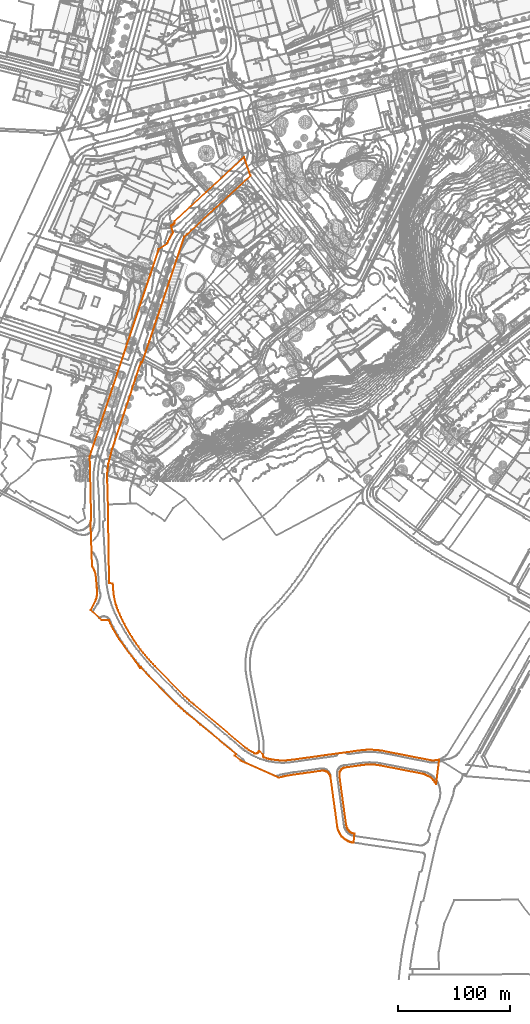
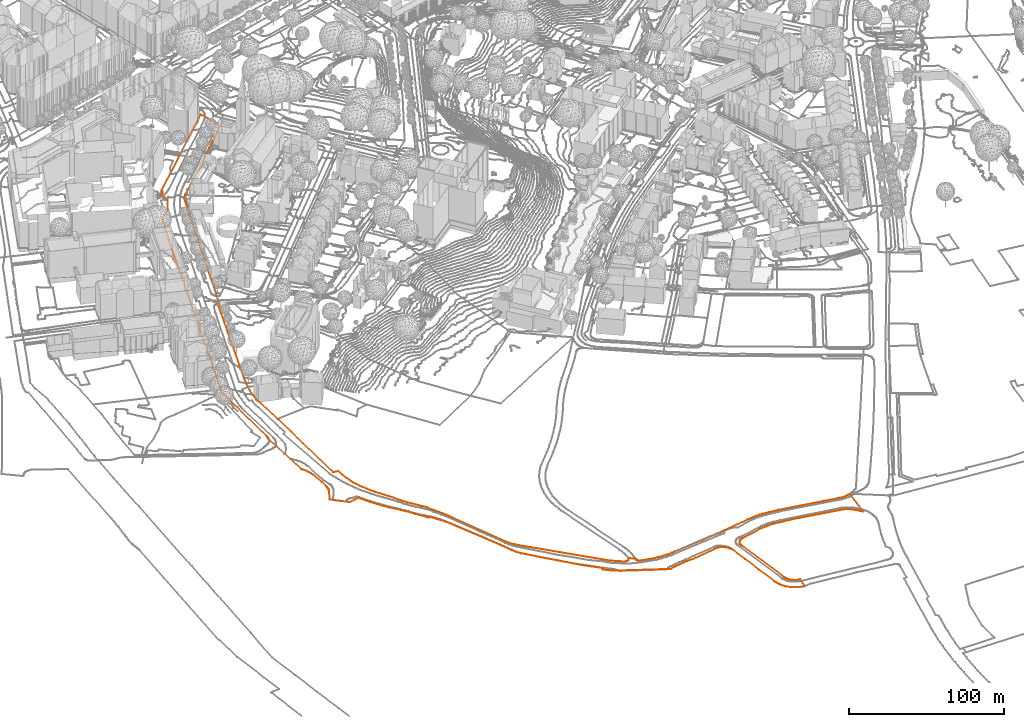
# Not in any storey, part 91 of 494: 1 proxy.
"""IFC2X3 model written with IfcOpenShell, lengths in metres."""

import ifcopenshell
import ifcopenshell.guid

model = None  # the IFC model being written
_history = None  # IfcOwnerHistory: only IFC2X3 demands one
_inside = {}  # id of a spatial element -> (the spatial element, [elements in it])
_under = {}  # id of a project, library or spatial element -> (it, [spatial elements below it])
_declared = {}  # id of a project -> (the project, [libraries it declares])
_typed = {}  # id of a type object -> (the type object, [elements of that type])
_made_of = {}  # id of a material, layer set ... -> (it, [elements and type objects made of it])


def new_model(schema):
    """Start an empty IFC model of exactly this schema.

    Asked for "IFC4X3", IfcOpenShell would pick the latest addendum, in which some entities
    have other attributes; the version numbers below select the first issue.
    IFC2X3 requires an IfcOwnerHistory on every rooted entity: one is made here for all.
    """
    global model, _history
    if schema == "IFC4X3":
        model = ifcopenshell.file(schema_version=(4, 3, 0, 0))
    else:
        model = ifcopenshell.file(schema=schema)
    _inside.clear()
    _under.clear()
    _declared.clear()
    _typed.clear()
    _made_of.clear()
    _history = None
    if model.schema == "IFC2X3":
        org = make("IfcOrganization", Name="unknown")
        user = make(
            "IfcPersonAndOrganization",
            ThePerson=make("IfcPerson", FamilyName="unknown"),
            TheOrganization=org,
        )
        app = make(
            "IfcApplication",
            ApplicationDeveloper=org,
            Version="unknown",
            ApplicationFullName="unknown",
            ApplicationIdentifier="unknown",
        )
        _history = make(
            "IfcOwnerHistory",
            OwningUser=user,
            OwningApplication=app,
            ChangeAction="ADDED",
            CreationDate=0,
        )
    return model


def make(cls, **values):
    """One entity of the class cls with the attributes given. An attribute that is None is left unset."""
    return model.create_entity(
        cls, **{name: value for name, value in values.items() if value is not None}
    )


def entity(cls, *values):
    """Any entity or typed value of the class cls, its attributes in the order of the schema. None: left unset."""
    e = model.create_entity(cls)
    for i, value in enumerate(values):
        if value is not None:
            e[i] = value
    return e


def rooted(cls, **values):
    """An entity with a GlobalId (a new one), such as an element, a storey or a relation."""
    return make(cls, GlobalId=ifcopenshell.guid.new(), OwnerHistory=_history, **values)


def si_unit(unit_type, name, prefix=None):
    """IfcSIUnit, for example si_unit("LENGTHUNIT", "METRE", prefix="MILLI")."""
    return make("IfcSIUnit", UnitType=unit_type, Prefix=prefix, Name=name)


def assignment(units):
    """IfcUnitAssignment: the units of a project."""
    return None if units is None else make("IfcUnitAssignment", Units=units)


def point(xyz):
    """IfcCartesianPoint."""
    return None if xyz is None else make("IfcCartesianPoint", Coordinates=xyz)


def direction(xyz):
    """IfcDirection."""
    return None if xyz is None else make("IfcDirection", DirectionRatios=xyz)


def frame(location, z_axis=None, x_axis=None):
    """IfcAxis2Placement3D, a coordinate frame: its origin and axes. An axis left out is left unset."""
    return make(
        "IfcAxis2Placement3D",
        Location=point(location),
        Axis=direction(z_axis),
        RefDirection=direction(x_axis),
    )


def origin_with_axes():
    """The frame at (0, 0, 0) with the z axis (0, 0, 1) and the x axis (1, 0, 0) written out."""
    return frame((0.0, 0.0, 0.0), z_axis=(0.0, 0.0, 1.0), x_axis=(1.0, 0.0, 0.0))


def place(relative_to, where):
    """IfcLocalPlacement: puts the frame where relative to a parent placement (None: the world)."""
    return make(
        "IfcLocalPlacement", PlacementRelTo=relative_to, RelativePlacement=where
    )


def context(
    kind, dimensions, precision=None, world=None, true_north=None, identifier=None
):
    """IfcGeometricRepresentationContext, for example the 3D "Model" context."""
    return make(
        "IfcGeometricRepresentationContext",
        ContextIdentifier=identifier,
        ContextType=kind,
        CoordinateSpaceDimension=dimensions,
        Precision=precision,
        WorldCoordinateSystem=world,
        TrueNorth=true_north,
    )


def subcontext(parent, identifier, kind, view, scale=None):
    """IfcGeometricRepresentationSubContext, for example "Body" below "Model"."""
    return make(
        "IfcGeometricRepresentationSubContext",
        ContextIdentifier=identifier,
        ContextType=kind,
        ParentContext=parent,
        TargetScale=scale,
        TargetView=view,
    )


def project(units=None, contexts=None):
    """IfcProject with its units and contexts."""
    return rooted(
        "IfcProject",
        Name="project",
        RepresentationContexts=contexts,
        UnitsInContext=assignment(units),
    )


def shape(context_of_items, identifier, shape_type, items):
    """IfcShapeRepresentation: the items that make up one representation, for example the "Body"."""
    return make(
        "IfcShapeRepresentation",
        ContextOfItems=context_of_items,
        RepresentationIdentifier=identifier,
        RepresentationType=shape_type,
        Items=items,
    )


def made_of(thing, what):
    """Note that an element or type object is made of a material, layer set ...; save() writes the relation."""
    if what is not None:
        _made_of.setdefault(what.id(), (what, []))[1].append(thing)
    return thing


def element(
    cls,
    number,
    at=None,
    inside=None,
    cuts=None,
    type_object=None,
    material=None,
    context=None,
    identifier="Body",
    shape_type=None,
    held_by="IfcProductDefinitionShape",
    body=None,
    shapes=None,
    **own,
):
    """One element of the class cls, such as IfcWall. Its Tag is "e" and its number.

    at: its placement. inside: the storey or other place that contains it. cuts: it is an
    opening in that element (IfcRelVoidsElement). A single representation is given by context,
    identifier, shape_type and body (its items); several are given by shapes. held_by: the class
    of the entity that holds the representations. save() writes the other relations.
    """
    e = rooted(cls, Tag="e%d" % number, ObjectPlacement=at, **own)
    if body is not None:
        shapes = [shape(context, identifier, shape_type, body)]
    if shapes is not None:
        e.Representation = make(held_by, Representations=shapes)
    if inside is not None:
        _inside.setdefault(inside.id(), (inside, []))[1].append(e)
    if cuts is not None:
        rooted(
            "IfcRelVoidsElement", RelatingBuildingElement=cuts, RelatedOpeningElement=e
        )
    if type_object is not None:
        _typed.setdefault(type_object.id(), (type_object, []))[1].append(e)
    return made_of(e, material)


def aggregate(whole, parts):
    """IfcRelAggregates: a whole, such as a stair, and the parts it consists of."""
    return rooted("IfcRelAggregates", RelatingObject=whole, RelatedObjects=parts)


def save(model, path):
    """Write the relations noted so far, then the file.

    IfcRelAggregates (storeys below a building ...), IfcRelContainedInSpatialStructure (elements
    in a storey), IfcRelDefinesByType, IfcRelAssociatesMaterial and IfcRelDeclares: one each for
    every whole, place, type object, material and project.
    """
    for whole, parts in _under.values():
        aggregate(whole, parts)
    for where, things in _inside.values():
        rooted(
            "IfcRelContainedInSpatialStructure",
            RelatedElements=things,
            RelatingStructure=where,
        )
    for kind, things in _typed.values():
        rooted("IfcRelDefinesByType", RelatedObjects=things, RelatingType=kind)
    for what, things in _made_of.values():
        rooted("IfcRelAssociatesMaterial", RelatedObjects=things, RelatingMaterial=what)
    for by, libraries in _declared.values():
        rooted("IfcRelDeclares", RelatingContext=by, RelatedDefinitions=libraries)
    model.write(path)


model = new_model("IFC2X3")

# Units and contexts
model_context = context("Model", 3, precision=1e-05, world=origin_with_axes())
body_context = subcontext(model_context, "Body", "Model", "MODEL_VIEW")
ifc_project = project(units=[si_unit("AREAUNIT", "SQUARE_METRE"), si_unit("LENGTHUNIT", "METRE")], contexts=[model_context])

# Proxy
proxy_placement = place(None, frame((15.8877320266, 20.6297160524, 528.0998203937), z_axis=(0.0, 0.0, 1.0), x_axis=(1.0, 0.0, 0.0)))
element("IfcBuildingElementProxy", 1, at=proxy_placement, Name="Cadastre 80", ObjectType="NOTDEFINED", context=body_context, shape_type="GeometricCurveSet", body=[
    entity("IfcGeometricCurveSet", [entity("IfcPolyline", [entity("IfcCartesianPoint", [0.0, 0.0, 0.0]), entity("IfcCartesianPoint", [1.3700000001, 4.1310000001, 0.1267865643]), entity("IfcCartesianPoint", [24.4450000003, 73.5360000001, 1.471592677]), entity("IfcCartesianPoint", [30.1170000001, 90.5989999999, 1.5704376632]), entity("IfcCartesianPoint", [35.8080000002, 107.6429999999, 2.1788151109]), entity("IfcCartesianPoint", [53.9240000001, 161.845, 3.5037501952]), entity("IfcCartesianPoint", [61.4539999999, 184.3540000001, 4.9051179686]), entity("IfcCartesianPoint", [69.0720000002, 189.7169999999, 5.3174669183]), entity("IfcCartesianPoint", [69.9739999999, 191.7, 5.4232299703]), entity("IfcCartesianPoint", [70.943, 193.6510000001, 5.5345758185]), entity("IfcCartesianPoint", [71.9750000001, 195.5700000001, 5.6352067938]), entity("IfcCartesianPoint", [73.071, 197.452, 5.729597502]), entity("IfcCartesianPoint", [74.23, 199.297, 5.8302710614]), entity("IfcCartesianPoint", [72.3450000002, 205.2290000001, 5.9612568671]), entity("IfcCartesianPoint", [72.8930000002, 205.422, 5.9883732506]), entity("IfcCartesianPoint", [73.4130000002, 205.6799999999, 6.0228923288]), entity("IfcCartesianPoint", [73.8969999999, 206.0009999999, 6.0638947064]), entity("IfcCartesianPoint", [74.3370000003, 206.379, 6.1025839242]), entity("IfcCartesianPoint", [74.7280000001, 206.8089999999, 6.1368080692]), entity("IfcCartesianPoint", [75.0630000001, 207.284, 6.1646952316]), entity("IfcCartesianPoint", [75.3360000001, 207.7960000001, 6.1576687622]), entity("IfcCartesianPoint", [75.5449999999, 208.338, 6.1716515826]), entity("IfcCartesianPoint", [75.6850000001, 208.9010000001, 6.194109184]), entity("IfcCartesianPoint", [75.7540000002, 209.4779999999, 6.2376271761]), entity("IfcCartesianPoint", [103.656, 235.263, 7.66897293]), entity("IfcCartesianPoint", [137.4420000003, 266.4920000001, 9.6656929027]), entity("IfcCartesianPoint", [143.0109999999, 249.8189999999, 9.2420330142]), entity("IfcCartesianPoint", [110.8020000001, 220.071, 7.0580988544]), entity("IfcCartesianPoint", [86.1010000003, 197.2549999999, 6.1402070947]), entity("IfcCartesianPoint", [84.1329999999, 195.4369999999, 5.945664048]), entity("IfcCartesianPoint", [60.1710000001, 123.7350000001, 2.9607254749]), entity("IfcCartesianPoint", [52.9550000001, 102.1429999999, 2.3175397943]), entity("IfcCartesianPoint", [46.6680000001, 83.9709999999, 1.9231325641]), entity("IfcCartesianPoint", [46.3200000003, 83.8100000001, 1.9074451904]), entity("IfcCartesianPoint", [46.0010000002, 83.598, 1.8977257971]), entity("IfcCartesianPoint", [45.7179999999, 83.3389999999, 1.8885195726]), entity("IfcCartesianPoint", [45.4780000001, 83.04, 1.8795370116]), entity("IfcCartesianPoint", [45.287, 82.7080000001, 1.8702921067]), entity("IfcCartesianPoint", [45.148, 82.351, 1.8620469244]), entity("IfcCartesianPoint", [19.952, 6.6799999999, 0.819991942]), entity("IfcCartesianPoint", [16.4810000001, -6.7679999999, 0.3471531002]), entity("IfcCartesianPoint", [15.3310000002, -17.0090000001, 0.3276889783]), entity("IfcCartesianPoint", [15.96, -29.3810000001, 0.0981105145]), entity("IfcCartesianPoint", [16.1690000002, -42.8829999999, 0.240598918]), entity("IfcCartesianPoint", [16.4390000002, -59.686, 0.325038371]), entity("IfcCartesianPoint", [16.6680000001, -74.6880000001, 0.3280294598]), entity("IfcCartesianPoint", [17.2630000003, -112.8149999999, 0.3358010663]), entity("IfcCartesianPoint", [20.5630000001, -113.2849999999, 0.4251372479]), entity("IfcCartesianPoint", [20.6740000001, -115.7209999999, 0.4273187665]), entity("IfcCartesianPoint", [20.8540000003, -118.152, 0.4308563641]), entity("IfcCartesianPoint", [21.1040000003, -120.578, 0.4357696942]), entity("IfcCartesianPoint", [21.423, -122.9950000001, 0.440196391]), entity("IfcCartesianPoint", [21.8110000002, -125.402, 0.4424461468]), entity("IfcCartesianPoint", [22.1860000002, -127.3899999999, 0.4446205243]), entity("IfcCartesianPoint", [22.6310000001, -129.3640000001, 0.4845600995]), entity("IfcCartesianPoint", [23.1440000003, -131.3219999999, 0.543737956]), entity("IfcCartesianPoint", [23.7250000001, -133.26, 0.5829087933]), entity("IfcCartesianPoint", [24.3740000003, -135.176, 0.6205084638]), entity("IfcCartesianPoint", [25.0890000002, -137.0689999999, 0.693692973]), entity("IfcCartesianPoint", [26.4240000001, -140.165, 0.7455101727]), entity("IfcCartesianPoint", [27.8280000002, -143.23, 0.7667772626]), entity("IfcCartesianPoint", [29.3000000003, -146.263, 0.8897718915]), entity("IfcCartesianPoint", [30.8400000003, -149.2609999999, 1.0941554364]), entity("IfcCartesianPoint", [32.4470000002, -152.2250000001, 1.1746447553]), entity("IfcCartesianPoint", [34.1440000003, -155.1629999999, 1.2537698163]), entity("IfcCartesianPoint", [35.8910000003, -158.071, 1.1586435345]), entity("IfcCartesianPoint", [37.6869999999, -160.949, 1.004370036]), entity("IfcCartesianPoint", [39.531, -163.7960000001, 0.8032185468]), entity("IfcCartesianPoint", [41.4240000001, -166.612, 0.7671936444]), entity("IfcCartesianPoint", [43.3540000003, -169.2890000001, 0.8003768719]), entity("IfcCartesianPoint", [45.344, -171.922, 0.7628147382]), entity("IfcCartesianPoint", [47.3940000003, -174.5090000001, 0.6803592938]), entity("IfcCartesianPoint", [49.5019999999, -177.0490000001, 0.5083053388]), entity("IfcCartesianPoint", [51.1970000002, -179.0719999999, -0.171011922]), entity("IfcCartesianPoint", [52.9330000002, -181.0600000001, -0.6822399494]), entity("IfcCartesianPoint", [54.7090000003, -183.0120000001, -1.2821169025]), entity("IfcCartesianPoint", [56.5249999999, -184.9280000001, -1.9569334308]), entity("IfcCartesianPoint", [58.3790000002, -186.8060000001, -2.5866184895]), entity("IfcCartesianPoint", [84.6129999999, -213.628, -15.3945732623]), entity("IfcCartesianPoint", [86.6129999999, -215.5930000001, -16.3226977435]), entity("IfcCartesianPoint", [88.6610000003, -217.507, -17.1204113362]), entity("IfcCartesianPoint", [90.7579999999, -219.3689999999, -17.4405098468]), entity("IfcCartesianPoint", [92.9020000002, -221.176, -17.9143379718]), entity("IfcCartesianPoint", [138.4130000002, -259.2239999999, -22.7600508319]), entity("IfcCartesianPoint", [139.9590000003, -260.3589999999, -22.7782764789]), entity("IfcCartesianPoint", [141.5449999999, -261.4369999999, -22.8984663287]), entity("IfcCartesianPoint", [143.1690000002, -262.4580000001, -23.0285391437]), entity("IfcCartesianPoint", [144.8280000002, -263.4199999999, -23.0972380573]), entity("IfcCartesianPoint", [146.5210000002, -264.3219999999, -23.1832862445]), entity("IfcCartesianPoint", [146.9470000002, -264.483, -23.1967937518]), entity("IfcCartesianPoint", [147.392, -264.578, -23.2083823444]), entity("IfcCartesianPoint", [147.8459999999, -264.605, -23.2115551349]), entity("IfcCartesianPoint", [148.2990000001, -264.5619999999, -23.215173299]), entity("IfcCartesianPoint", [148.7409999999, -264.452, -23.2404782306]), entity("IfcCartesianPoint", [149.1600000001, -264.2760000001, -23.2644663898]), entity("IfcCartesianPoint", [149.548, -264.0379999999, -23.2788613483]), entity("IfcCartesianPoint", [149.8960000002, -263.7450000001, -23.2882389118]), entity("IfcCartesianPoint", [150.196, -263.402, -23.2963230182]), entity("IfcCartesianPoint", [150.4399999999, -263.0179999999, -23.2957249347]), entity("IfcCartesianPoint", [150.6230000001, -262.602, -23.2919049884]), entity("IfcCartesianPoint", [150.7409999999, -262.162, -23.2894418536]), entity("IfcCartesianPoint", [154.3300000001, -265.621, -23.313034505]), entity("IfcCartesianPoint", [154.2370000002, -265.987, -23.310322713]), entity("IfcCartesianPoint", [154.2140000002, -266.3640000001, -23.3086241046]), entity("IfcCartesianPoint", [154.2620000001, -266.7379999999, -23.3121690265]), entity("IfcCartesianPoint", [154.3799999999, -267.0970000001, -23.3115315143]), entity("IfcCartesianPoint", [154.5630000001, -267.4269999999, -23.3060305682]), entity("IfcCartesianPoint", [154.8050000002, -267.7169999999, -23.2987560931]), entity("IfcCartesianPoint", [155.0980000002, -267.956, -23.2899485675]), entity("IfcCartesianPoint", [155.4300000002, -268.1359999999, -23.2849845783]), entity("IfcCartesianPoint", [155.79, -268.25, -23.2870609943]), entity("IfcCartesianPoint", [157.7590000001, -268.831, -23.2877000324]), entity("IfcCartesianPoint", [159.7490000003, -269.335, -23.3033862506]), entity("IfcCartesianPoint", [161.7570000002, -269.763, -23.3193194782]), entity("IfcCartesianPoint", [163.7800000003, -270.1129999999, -23.4409571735]), entity("IfcCartesianPoint", [165.8140000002, -270.385, -23.6773744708]), entity("IfcCartesianPoint", [167.858, -270.5789999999, -23.5735777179]), entity("IfcCartesianPoint", [169.9110000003, -270.6939999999, -23.5841148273]), entity("IfcCartesianPoint", [171.9670000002, -270.7309999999, -23.5837855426]), entity("IfcCartesianPoint", [174.0219999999, -270.6880000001, -23.732234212]), entity("IfcCartesianPoint", [176.0750000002, -270.567, -23.8176508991]), entity("IfcCartesianPoint", [178.1210000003, -270.3659999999, -23.7857984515]), entity("IfcCartesianPoint", [180.1580000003, -270.088, -23.8650714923]), entity("IfcCartesianPoint", [214.5090000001, -265.334, -24.6393101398]), entity("IfcCartesianPoint", [239.8640000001, -261.825, -24.2785943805]), entity("IfcCartesianPoint", [242.0970000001, -261.551, -24.2408899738]), entity("IfcCartesianPoint", [244.338, -261.352, -24.2132088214]), entity("IfcCartesianPoint", [246.5840000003, -261.227, -24.1954756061]), entity("IfcCartesianPoint", [248.8330000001, -261.1780000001, -24.1840255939]), entity("IfcCartesianPoint", [251.0830000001, -261.2039999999, -24.2283756]), entity("IfcCartesianPoint", [253.3310000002, -261.304, -24.3354981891]), entity("IfcCartesianPoint", [255.574, -261.4790000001, -24.3641250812]), entity("IfcCartesianPoint", [257.8110000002, -261.7290000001, -24.4327138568]), entity("IfcCartesianPoint", [260.037, -262.054, -24.3911472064]), entity("IfcCartesianPoint", [262.2519999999, -262.453, -24.26482607]), entity("IfcCartesianPoint", [303.1230000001, -270.469, -24.2551452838]), entity("IfcCartesianPoint", [304.2609999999, -270.6040000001, -24.2770137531]), entity("IfcCartesianPoint", [305.4050000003, -270.6640000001, -24.3041081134]), entity("IfcCartesianPoint", [306.551, -270.649, -24.302267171]), entity("IfcCartesianPoint", [307.6940000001, -270.558, -24.2573568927]), entity("IfcCartesianPoint", [308.8280000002, -270.3929999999, -24.2702491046]), entity("IfcCartesianPoint", [309.9480000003, -270.1540000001, -24.3254604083]), entity("IfcCartesianPoint", [311.051, -269.841, -24.3000885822]), entity("IfcCartesianPoint", [308.338, -291.656, -24.2401026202]), entity("IfcCartesianPoint", [307.7880000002, -290.6799999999, -24.2541698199]), entity("IfcCartesianPoint", [307.1770000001, -289.7409999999, -24.2758272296]), entity("IfcCartesianPoint", [306.5070000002, -288.8430000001, -24.3041255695]), entity("IfcCartesianPoint", [305.781, -287.9890000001, -24.3080094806]), entity("IfcCartesianPoint", [305.0019999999, -287.1839999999, -24.2955144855]), entity("IfcCartesianPoint", [304.173, -286.4299999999, -24.2763907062]), entity("IfcCartesianPoint", [303.2970000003, -285.7309999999, -24.2701885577]), entity("IfcCartesianPoint", [302.3790000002, -285.0900000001, -24.188346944]), entity("IfcCartesianPoint", [301.4210000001, -284.5079999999, -24.1284570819]), entity("IfcCartesianPoint", [300.4280000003, -283.9890000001, -24.0937484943]), entity("IfcCartesianPoint", [299.4040000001, -283.5349999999, -24.049508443]), entity("IfcCartesianPoint", [298.3530000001, -283.1470000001, -24.059267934]), entity("IfcCartesianPoint", [297.2790000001, -282.827, -24.085480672]), entity("IfcCartesianPoint", [296.1869999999, -282.5760000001, -24.1276155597]), entity("IfcCartesianPoint", [263.75, -276.22, -24.0336851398]), entity("IfcCartesianPoint", [258.341, -275.1399999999, -24.4310267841]), entity("IfcCartesianPoint", [256.98, -274.9129999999, -24.4204420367]), entity("IfcCartesianPoint", [255.6129999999, -274.7239999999, -24.3654985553]), entity("IfcCartesianPoint", [254.2409999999, -274.571, -24.3379975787]), entity("IfcCartesianPoint", [252.8910000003, -274.4480000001, -24.3239761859]), entity("IfcCartesianPoint", [251.537, -274.388, -24.2550172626]), entity("IfcCartesianPoint", [250.1809999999, -274.3910000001, -24.1876109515]), entity("IfcCartesianPoint", [247.9640000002, -274.4280000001, -24.2119384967]), entity("IfcCartesianPoint", [245.75, -274.544, -24.2129466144]), entity("IfcCartesianPoint", [243.5419999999, -274.7390000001, -24.2396171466]), entity("IfcCartesianPoint", [241.3420000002, -275.0120000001, -24.2495533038]), entity("IfcCartesianPoint", [227.8429999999, -276.8629999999, -25.3147274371]), entity("IfcCartesianPoint", [227.2150000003, -276.98, -25.2990948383]), entity("IfcCartesianPoint", [226.602, -277.1580000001, -25.3172596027]), entity("IfcCartesianPoint", [226.0100000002, -277.395, -25.316985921]), entity("IfcCartesianPoint", [225.443, -277.6899999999, -25.297709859]), entity("IfcCartesianPoint", [224.909, -278.0379999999, -25.2894736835]), entity("IfcCartesianPoint", [224.4100000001, -278.4369999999, -25.2854991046]), entity("IfcCartesianPoint", [223.9539999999, -278.8829999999, -25.2674602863]), entity("IfcCartesianPoint", [223.5430000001, -279.372, -25.2465641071]), entity("IfcCartesianPoint", [223.1830000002, -279.898, -25.2245808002]), entity("IfcCartesianPoint", [222.8769999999, -280.4569999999, -25.1984987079]), entity("IfcCartesianPoint", [222.6269999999, -281.044, -25.177189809]), entity("IfcCartesianPoint", [222.4350000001, -281.652, -25.1608245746]), entity("IfcCartesianPoint", [222.304, -282.2760000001, -25.1496587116]), entity("IfcCartesianPoint", [222.2340000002, -282.909, -25.1442766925]), entity("IfcCartesianPoint", [222.227, -283.547, -25.1437531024]), entity("IfcCartesianPoint", [222.2820000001, -284.182, -25.1478670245]), entity("IfcCartesianPoint", [228.3429999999, -328.429, -25.3286407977]), entity("IfcCartesianPoint", [228.4840000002, -329.219, -25.3272595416]), entity("IfcCartesianPoint", [228.6970000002, -329.993, -25.3251729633]), entity("IfcCartesianPoint", [228.98, -330.7439999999, -25.3224006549]), entity("IfcCartesianPoint", [229.3300000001, -331.466, -25.3166783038]), entity("IfcCartesianPoint", [229.7450000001, -332.1529999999, -25.288815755]), entity("IfcCartesianPoint", [230.2209999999, -332.8, -25.2568577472]), entity("IfcCartesianPoint", [230.7540000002, -333.3999999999, -25.2559209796]), entity("IfcCartesianPoint", [231.3400000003, -333.949, -25.2600880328]), entity("IfcCartesianPoint", [231.9739999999, -334.442, -25.2587917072]), entity("IfcCartesianPoint", [232.6510000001, -334.875, -25.2536286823]), entity("IfcCartesianPoint", [233.3640000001, -335.2439999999, -25.2399740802]), entity("IfcCartesianPoint", [234.108, -335.5460000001, -25.1830751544]), entity("IfcCartesianPoint", [234.8769999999, -335.7790000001, -25.0728158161]), entity("IfcCartesianPoint", [235.6639999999, -335.9399999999, -24.9996341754]), entity("IfcCartesianPoint", [234.8450000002, -343.9099999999, -25.0780677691]), entity("IfcCartesianPoint", [233.7570000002, -343.7309999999, -25.2099185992]), entity("IfcCartesianPoint", [232.6830000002, -343.4820000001, -25.2532282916]), entity("IfcCartesianPoint", [231.6269999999, -343.162, -25.2595012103]), entity("IfcCartesianPoint", [230.5950000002, -342.773, -25.2546545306]), entity("IfcCartesianPoint", [229.591, -342.317, -25.2991551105]), entity("IfcCartesianPoint", [228.6189999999, -341.7960000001, -25.3259370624]), entity("IfcCartesianPoint", [227.6839999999, -341.2120000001, -25.3095937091]), entity("IfcCartesianPoint", [226.7880000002, -340.568, -25.3117479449]), entity("IfcCartesianPoint", [225.9380000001, -339.8659999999, -25.3145381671]), entity("IfcCartesianPoint", [225.1350000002, -339.1100000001, -25.2912737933]), entity("IfcCartesianPoint", [224.3590000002, -338.2790000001, -25.2850928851]), entity("IfcCartesianPoint", [223.6410000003, -337.398, -25.251546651]), entity("IfcCartesianPoint", [222.9840000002, -336.47, -25.2076189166]), entity("IfcCartesianPoint", [222.4169999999, -335.5390000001, -25.1592903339]), entity("IfcCartesianPoint", [221.9110000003, -334.574, -25.1201167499]), entity("IfcCartesianPoint", [221.469, -333.578, -25.0870557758]), entity("IfcCartesianPoint", [221.0929999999, -332.5549999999, -25.0754704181]), entity("IfcCartesianPoint", [220.784, -331.5090000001, -25.0782993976]), entity("IfcCartesianPoint", [220.5440000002, -330.446, -25.0804966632]), entity("IfcCartesianPoint", [220.3730000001, -329.3700000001, -25.082062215]), entity("IfcCartesianPoint", [218.1610000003, -313.199, -24.9696161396]), entity("IfcCartesianPoint", [216.2009999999, -298.8689999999, -24.7297373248]), entity("IfcCartesianPoint", [214.4130000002, -285.8219999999, -24.6334507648]), entity("IfcCartesianPoint", [214.287, -285.1459999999, -24.6261124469]), entity("IfcCartesianPoint", [214.0959999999, -284.486, -24.6368725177]), entity("IfcCartesianPoint", [213.841, -283.848, -24.6512380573]), entity("IfcCartesianPoint", [213.5240000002, -283.2379999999, -24.6690963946]), entity("IfcCartesianPoint", [213.1490000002, -282.6629999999, -24.6796024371]), entity("IfcCartesianPoint", [212.7200000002, -282.1259999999, -24.6714591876]), entity("IfcCartesianPoint", [212.2390000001, -281.635, -24.6573670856]), entity("IfcCartesianPoint", [211.713, -281.193, -24.596208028]), entity("IfcCartesianPoint", [211.145, -280.8030000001, -24.5386085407]), entity("IfcCartesianPoint", [210.54, -280.4720000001, -24.5034916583]), entity("IfcCartesianPoint", [209.9070000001, -280.2010000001, -24.3980461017]), entity("IfcCartesianPoint", [209.2490000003, -279.9939999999, -24.2464300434]), entity("IfcCartesianPoint", [208.5750000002, -279.8530000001, -24.1622006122]), entity("IfcCartesianPoint", [207.8900000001, -279.7790000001, -24.1031346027]), entity("IfcCartesianPoint", [207.2000000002, -279.7720000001, -24.0729807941]), entity("IfcCartesianPoint", [206.514, -279.834, -24.1112500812]), entity("IfcCartesianPoint", [189.5449999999, -282.2050000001, -24.3936176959]), entity("IfcCartesianPoint", [181.8560000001, -283.2749999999, -23.9196319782]), entity("IfcCartesianPoint", [179.105, -283.686, -23.8093015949]), entity("IfcCartesianPoint", [176.3640000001, -284.1610000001, -23.8197466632]), entity("IfcCartesianPoint", [173.6350000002, -284.6969999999, -23.703322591]), entity("IfcCartesianPoint", [170.9180000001, -285.2960000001, -23.5706046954]), entity("IfcCartesianPoint", [168.216, -285.956, -23.5837928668]), entity("IfcCartesianPoint", [134.4909999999, -270.912, -22.2986143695]), entity("IfcCartesianPoint", [129.1320000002, -266.3929999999, -22.2902415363]), entity("IfcCartesianPoint", [130.1720000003, -265.1129999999, -22.2918283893]), entity("IfcCartesianPoint", [120.1740000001, -256.7960000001, -21.5850635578]), entity("IfcCartesianPoint", [98.3689999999, -238.642, -18.5778958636]), entity("IfcCartesianPoint", [86.7110000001, -229.135, -16.3550424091]), entity("IfcCartesianPoint", [84.1699999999, -226.9140000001, -15.150357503]), entity("IfcCartesianPoint", [81.6720000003, -224.6459999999, -13.8375744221]), entity("IfcCartesianPoint", [79.2140000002, -222.325, -12.5485015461]), entity("IfcCartesianPoint", [76.8030000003, -219.9569999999, -11.4533695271]), entity("IfcCartesianPoint", [52.7990000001, -195.584, -0.636978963]), entity("IfcCartesianPoint", [45.5700000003, -187.727, 0.7537245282]), entity("IfcCartesianPoint", [44.77, -188.277, 0.7800624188]), entity("IfcCartesianPoint", [43.8459999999, -186.8700000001, 0.7970135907]), entity("IfcCartesianPoint", [42.9010000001, -185.477, 0.7946650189]), entity("IfcCartesianPoint", [41.1460000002, -182.919, 0.7619501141]), entity("IfcCartesianPoint", [39.3330000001, -180.4029999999, 0.8178413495]), entity("IfcCartesianPoint", [37.4620000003, -177.929, 1.0311766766]), entity("IfcCartesianPoint", [30.3740000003, -168.5220000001, 1.0667938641]), entity("IfcCartesianPoint", [28.307, -165.541, 0.7625187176]), entity("IfcCartesianPoint", [26.298, -162.52, 0.741326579]), entity("IfcCartesianPoint", [24.3480000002, -159.4609999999, 0.6178472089]), entity("IfcCartesianPoint", [22.4569999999, -156.365, 0.464488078]), entity("IfcCartesianPoint", [21.02, -153.7350000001, 0.4341188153]), entity("IfcCartesianPoint", [19.6359999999, -151.0760000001, 0.4111897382]), entity("IfcCartesianPoint", [18.3050000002, -148.3899999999, 0.3606578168]), entity("IfcCartesianPoint", [17.0290000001, -145.6780000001, 0.3327446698]), entity("IfcCartesianPoint", [10.5589999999, -145.8389999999, -0.8286466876]), entity("IfcCartesianPoint", [0.861, -136.811, -0.8703716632]), entity("IfcCartesianPoint", [5.0720000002, -128.578, -0.9409717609]), entity("IfcCartesianPoint", [5.4139999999, -127.851, -0.9282327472]), entity("IfcCartesianPoint", [5.71, -127.1040000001, -0.9222166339]), entity("IfcCartesianPoint", [5.96, -126.3400000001, -0.9171354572]), entity("IfcCartesianPoint", [6.1630000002, -125.5630000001, -0.9130095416]), entity("IfcCartesianPoint", [6.3250000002, -124.7749999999, -0.9095652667]), entity("IfcCartesianPoint", [6.4369999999, -123.9790000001, -0.906803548]), entity("IfcCartesianPoint", [6.5, -123.1780000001, -0.9052500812]), entity("IfcCartesianPoint", [6.5130000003, -122.3740000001, -0.9049295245]), entity("IfcCartesianPoint", [6.3840000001, -116.865, -0.9081104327]), entity("IfcCartesianPoint", [6.1839999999, -116.855, -0.9125827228]), entity("IfcCartesianPoint", [5.6850000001, -108.5970000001, -0.9227247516]), entity("IfcCartesianPoint", [5.5690000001, -107.2990000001, -0.9250824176]), entity("IfcCartesianPoint", [5.3799999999, -106.01, -0.9289237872]), entity("IfcCartesianPoint", [5.1189999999, -104.7339999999, -0.9387686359]), entity("IfcCartesianPoint", [4.7850000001, -103.4739999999, -0.9544248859]), entity("IfcCartesianPoint", [4.3810000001, -102.2350000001, -0.9733623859]), entity("IfcCartesianPoint", [3.9070000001, -101.0220000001, -0.9926590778]), entity("IfcCartesianPoint", [3.3650000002, -99.8370000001, -1.0139301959]), entity("IfcCartesianPoint", [2.7570000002, -98.6839999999, -0.9826827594]), entity("IfcCartesianPoint", [2.085, -97.568, -0.9448179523]), entity("IfcCartesianPoint", [0.7170000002, -58.5379999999, -0.8556763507]), entity("IfcCartesianPoint", [0.9410000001, -57.798, -0.8785357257]), entity("IfcCartesianPoint", [1.1129999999, -57.0449999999, -0.8960884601]), entity("IfcCartesianPoint", [1.2320000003, -56.281, -0.9082325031]), entity("IfcCartesianPoint", [1.2970000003, -55.5109999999, -0.9144214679]), entity("IfcCartesianPoint", [1.3080000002, -54.7379999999, -0.9148457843]), entity("IfcCartesianPoint", [0.0, 0.0, 0.0])])]),
])

save(model, "model.ifc")
